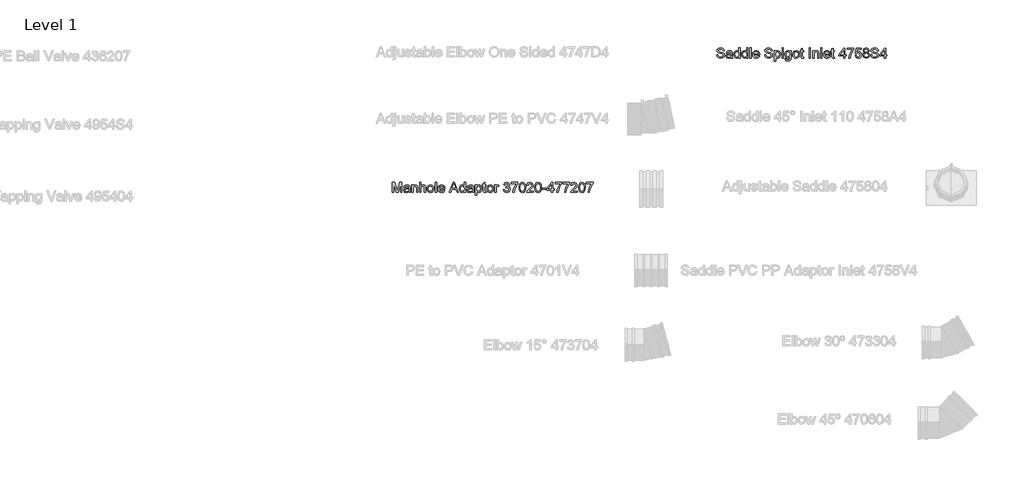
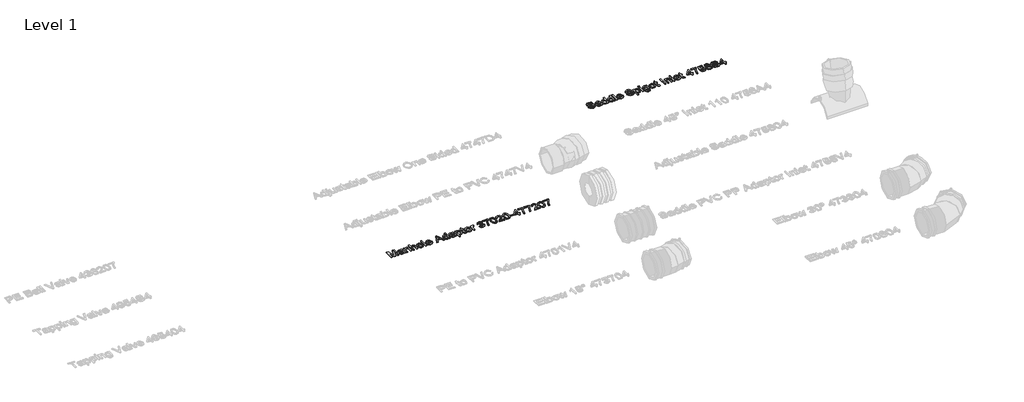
# One storey, part 37 of 38: 2 proxies.
"""IFC4 building model written with IfcOpenShell, lengths in millimetres."""

from ifc_helpers import new_model, si_unit, origin, origin_with_axes, place, context, project, spatial, polyline, outline, extrude, element, save

model = new_model("IFC4")

# Units and contexts
model_context = context("Model", 3, world=origin())
ifc_project = project(units=[si_unit("LENGTHUNIT", "METRE", prefix="MILLI")], contexts=[model_context])

# Site, building, storey
site = spatial("IfcSite", under=ifc_project)
building = spatial("IfcBuilding", under=site)
storey = spatial("IfcBuildingStorey", under=building, Name="Level 1", Elevation=0.0)

# Proxies
placement = place(None, origin())
element("IfcBuildingElementProxy", 1, Name="100 mm Arial", ObjectType="100 mm Arial", at=placement, inside=storey, context=model_context, shape_type="SweptSolid", body=[
    extrude(outline(polyline([(23902.9060497, 3992.3077873), (23902.9060497, 4051.3847104), (23915.6127805, 4051.3847104), (23927.6993189, 4009.7452873), (23930.1368189, 4001.0481719), (23932.776242, 4010.4664411), (23944.6608574, 4051.3847104), (23957.3675882, 4051.3847104), (23957.3675882, 3992.3077873), (23949.9829728, 3992.3077873), (23949.9829728, 4044.000095), (23935.1416266, 3992.3077873), (23925.1320112, 3992.3077873), (23910.2906651, 4044.000095), (23910.2906651, 3992.3077873), (23902.9060497, 3992.3077873)])), origin_with_axes(), (0.0, 0.0, 1.0), 5.0),
    extrude(outline(polyline([(23997.0598959, 3997.8462488), (23989.8988382, 3992.8414411), (23981.9877805, 3991.3847104), (23971.2642228, 3994.8895181), (23967.5214343, 4003.8462488), (23968.9348959, 4009.687595), (23972.6488382, 4013.9279796), (23977.8195112, 4016.3510565), (23984.2089343, 4017.4616334), (23997.0166266, 4020.000095), (23997.0598959, 4021.6443257), (23995.026242, 4027.0962488), (23986.8627805, 4029.2308642), (23979.3916266, 4027.8101911), (23975.8291266, 4022.7693257), (23968.4445112, 4023.6924027), (23971.6392228, 4030.9039411), (23978.0719151, 4035.1299027), (23987.8147036, 4036.6154796), (23996.7642228, 4035.3029796), (24001.8195112, 4032.0073065), (24004.0839343, 4026.9952873), (24004.4445112, 4020.5337488), (24004.4445112, 4011.3462488), (24004.8195112, 3998.5169219), (24006.2906651, 3992.3077873), (23998.9060497, 3992.3077873), (23997.0598959, 3997.8462488)]), holes=[polyline([(23997.0598959, 4012.6154796), (23985.1464343, 4010.3510565), (23978.7930689, 4009.1539411), (23975.9156651, 4007.2068257), (23974.9060497, 4004.3654796), (23977.1055689, 4000.3702873), (23983.5598959, 3998.7693257), (23991.0310497, 4000.5361527), (23995.8483574, 4004.812595), (23997.0166266, 4010.5241334), (23997.0598959, 4012.6154796)])]), origin_with_axes(), (0.0, 0.0, 1.0), 5.0),
    extrude(outline(polyline([(24014.5983574, 3992.3077873), (24014.5983574, 4035.6924027), (24021.9829728, 4035.6924027), (24021.9829728, 4029.6347104), (24027.6296074, 4034.8702873), (24035.338742, 4036.6154796), (24042.3122997, 4035.2092296), (24047.0719151, 4031.5169219), (24049.2858574, 4026.0866334), (24049.6752805, 4018.9472104), (24049.6752805, 3992.3077873), (24042.2906651, 3992.3077873), (24042.2906651, 4017.9520181), (24041.4397036, 4024.4856719), (24038.432492, 4027.9399988), (24033.3627805, 4029.2308642), (24025.3507612, 4026.3318257), (24021.9829728, 4015.3270181), (24021.9829728, 3992.3077873), (24014.5983574, 3992.3077873)])), origin_with_axes(), (0.0, 0.0, 1.0), 5.0),
    extrude(outline(polyline([(24059.8291266, 3992.3077873), (24059.8291266, 4051.3847104), (24067.213742, 4051.3847104), (24067.213742, 4029.6635565), (24072.9721555, 4034.8774988), (24080.0647036, 4036.6154796), (24088.3579728, 4034.718845), (24093.3916266, 4029.4760565), (24094.9060497, 4019.7693257), (24094.9060497, 3992.3077873), (24087.5214343, 3992.3077873), (24087.5214343, 4019.0049027), (24085.1704728, 4026.7933642), (24078.5070112, 4029.2308642), (24072.4565305, 4027.5866334), (24068.4180689, 4023.1299027), (24067.213742, 4015.3558642), (24067.213742, 3992.3077873), (24059.8291266, 3992.3077873)])), origin_with_axes(), (0.0, 0.0, 1.0), 5.0),
    extrude(outline(polyline([(24103.213742, 4014.000095), (24104.8110978, 4024.4604315), (24109.6031651, 4031.812595), (24122.6127805, 4036.6154796), (24130.370593, 4035.1533402), (24136.5671074, 4030.7669219), (24140.6290064, 4023.8023786), (24141.9829728, 4014.6058642), (24139.588742, 4001.4664411), (24132.6151843, 3994.031345), (24122.6127805, 3991.3847104), (24114.761218, 3992.8414411), (24108.5719151, 3997.2116334), (24104.5532853, 4004.3222104), (24103.213742, 4014.000095)]), holes=[polyline([(24110.5983574, 4014.0145181), (24114.0166266, 4002.5698065), (24122.6127805, 3998.7693257), (24131.1800882, 4002.5914411), (24134.5983574, 4014.2452873), (24131.1584536, 4025.4303834), (24122.6127805, 4029.2308642), (24114.0166266, 4025.4448065), (24110.5983574, 4014.0145181)])]), origin_with_axes(), (0.0, 0.0, 1.0), 5.0),
    extrude(outline(polyline([(24150.2906651, 3992.3077873), (24150.2906651, 4051.3847104), (24157.6752805, 4051.3847104), (24157.6752805, 3992.3077873), (24150.2906651, 3992.3077873)])), origin_with_axes(), (0.0, 0.0, 1.0), 5.0),
    extrude(outline(polyline([(24199.1272036, 4005.2308642), (24206.3675882, 4004.3077873), (24199.5959536, 3994.7741334), (24186.9829728, 3991.3847104), (24178.3183093, 3992.8468498), (24171.651242, 3997.2332681), (24167.4000401, 4004.2591094), (24165.9829728, 4013.6395181), (24167.4144632, 4023.3354315), (24171.7089343, 4030.5866334), (24178.2858574, 4035.1082681), (24186.5647036, 4036.6154796), (24194.5857372, 4035.1118738), (24200.994992, 4030.6010565), (24205.1975161, 4023.3642777), (24206.5983574, 4013.6827873), (24206.5550882, 4011.6924027), (24173.3675882, 4011.6924027), (24177.6151843, 4002.1010565), (24187.1272036, 3998.7693257), (24194.3675882, 4000.312595), (24199.1272036, 4005.2308642)]), holes=[polyline([(24173.3675882, 4019.0770181), (24199.213742, 4019.0770181), (24196.2570112, 4025.7693257), (24186.5358574, 4029.2308642), (24177.4421074, 4026.468845), (24173.3675882, 4019.0770181)])]), origin_with_axes(), (0.0, 0.0, 1.0), 5.0),
    extrude(outline(polyline([(24231.1031651, 3992.3077873), (24254.6848959, 4051.3847104), (24260.9733574, 4051.3847104), (24284.5550882, 3992.3077873), (24276.7522036, 3992.3077873), (24269.9877805, 4010.7693257), (24245.6560497, 4010.7693257), (24238.9060497, 3992.3077873), (24231.1031651, 3992.3077873)]), holes=[polyline([(24248.3675882, 4018.1539411), (24267.2906651, 4018.1539411), (24261.9685497, 4032.6779796), (24257.8291266, 4044.000095), (24254.151242, 4033.9472104), (24248.3675882, 4018.1539411)])]), origin_with_axes(), (0.0, 0.0, 1.0), 5.0),
    extrude(outline(polyline([(24318.2906651, 3992.3077873), (24318.2906651, 3999.2741334), (24313.4048478, 3993.3570661), (24306.651242, 3991.3847104), (24297.5070112, 3994.2404796), (24291.0454728, 4002.2092296), (24288.7522036, 4013.9568257), (24290.8651843, 4025.7116334), (24297.1969151, 4033.8029796), (24306.6223959, 4036.6154796), (24313.4300882, 4034.6034604), (24318.2906651, 4029.375095), (24318.2906651, 4051.3847104), (24325.6752805, 4051.3847104), (24325.6752805, 3992.3077873), (24318.2906651, 3992.3077873)]), holes=[polyline([(24296.1368189, 4013.9856719), (24299.4685497, 4002.5553834), (24307.3291266, 3998.7693257), (24315.0959536, 4002.3823065), (24318.2906651, 4013.4231719), (24315.0382612, 4025.4087488), (24307.026242, 4029.2308642), (24299.2522036, 4025.5601911), (24296.1368189, 4013.9856719)])]), origin_with_axes(), (0.0, 0.0, 1.0), 5.0),
    extrude(outline(polyline([(24364.4445112, 3997.8462488), (24357.2834536, 3992.8414411), (24349.3723959, 3991.3847104), (24338.6488382, 3994.8895181), (24334.9060497, 4003.8462488), (24336.3195112, 4009.687595), (24340.0334536, 4013.9279796), (24345.2041266, 4016.3510565), (24351.5935497, 4017.4616334), (24364.401242, 4020.000095), (24364.4445112, 4021.6443257), (24362.4108574, 4027.0962488), (24354.2473959, 4029.2308642), (24346.776242, 4027.8101911), (24343.213742, 4022.7693257), (24335.8291266, 4023.6924027), (24339.0238382, 4030.9039411), (24345.4565305, 4035.1299027), (24355.1993189, 4036.6154796), (24364.1488382, 4035.3029796), (24369.2041266, 4032.0073065), (24371.4685497, 4026.9952873), (24371.8291266, 4020.5337488), (24371.8291266, 4011.3462488), (24372.2041266, 3998.5169219), (24373.6752805, 3992.3077873), (24366.2906651, 3992.3077873), (24364.4445112, 3997.8462488)]), holes=[polyline([(24364.4445112, 4012.6154796), (24352.5310497, 4010.3510565), (24346.1776843, 4009.1539411), (24343.3002805, 4007.2068257), (24342.2906651, 4004.3654796), (24344.4901843, 4000.3702873), (24350.9445112, 3998.7693257), (24358.4156651, 4000.5361527), (24363.2329728, 4004.812595), (24364.401242, 4010.5241334), (24364.4445112, 4012.6154796)])]), origin_with_axes(), (0.0, 0.0, 1.0), 5.0),
    extrude(outline(polyline([(24381.9829728, 3975.6924027), (24381.9829728, 4035.6924027), (24389.3675882, 4035.6924027), (24389.3675882, 4028.4520181), (24394.4733574, 4034.5746142), (24401.3675882, 4036.6154796), (24410.7281651, 4033.7597104), (24416.8435497, 4025.7116334), (24418.9060497, 4014.3318257), (24416.5767228, 4002.3678834), (24409.8122997, 3994.218845), (24400.4733574, 3991.3847104), (24394.0478766, 3993.281345), (24389.3675882, 3998.0770181), (24389.3675882, 3975.6924027), (24381.9829728, 3975.6924027)]), holes=[polyline([(24389.3675882, 4013.6539411), (24392.5622997, 4002.4039411), (24400.3147036, 3998.7693257), (24408.2257612, 4002.5337488), (24411.5214343, 4014.2020181), (24408.3050882, 4025.4808642), (24400.6175882, 4029.2308642), (24392.7786459, 4025.2428834), (24389.3675882, 4013.6539411)])]), origin_with_axes(), (0.0, 0.0, 1.0), 5.0),
    extrude(outline(polyline([(24442.9060497, 3998.4664411), (24443.8291266, 3992.0914411), (24438.3050882, 3991.3847104), (24432.1175882, 3992.6106719), (24429.0310497, 3995.8270181), (24428.1368189, 4004.2068257), (24428.1368189, 4028.3077873), (24422.5983574, 4028.3077873), (24422.5983574, 4035.6924027), (24428.1368189, 4035.6924027), (24428.1368189, 4046.2356719), (24435.5214343, 4050.5770181), (24435.5214343, 4035.6924027), (24442.9060497, 4035.6924027), (24442.9060497, 4028.3077873), (24435.5214343, 4028.3077873), (24435.5214343, 4004.4231719), (24435.9108574, 4000.6154796), (24437.1728766, 3999.2669219), (24439.6897036, 3998.7693257), (24442.9060497, 3998.4664411)])), origin_with_axes(), (0.0, 0.0, 1.0), 5.0),
    extrude(outline(polyline([(24448.4445112, 4014.000095), (24450.041867, 4024.4604315), (24454.8339343, 4031.812595), (24467.8435497, 4036.6154796), (24475.6013622, 4035.1533402), (24481.7978766, 4030.7669219), (24485.8597757, 4023.8023786), (24487.213742, 4014.6058642), (24484.8195112, 4001.4664411), (24477.8459536, 3994.031345), (24467.8435497, 3991.3847104), (24459.9919872, 3992.8414411), (24453.8026843, 3997.2116334), (24449.7840545, 4004.3222104), (24448.4445112, 4014.000095)]), holes=[polyline([(24455.8291266, 4014.0145181), (24459.2473959, 4002.5698065), (24467.8435497, 3998.7693257), (24476.4108574, 4002.5914411), (24479.8291266, 4014.2452873), (24476.3892228, 4025.4303834), (24467.8435497, 4029.2308642), (24459.2473959, 4025.4448065), (24455.8291266, 4014.0145181)])]), origin_with_axes(), (0.0, 0.0, 1.0), 5.0),
    extrude(outline(polyline([(24495.5214343, 3992.3077873), (24495.5214343, 4035.6924027), (24501.9829728, 4035.6924027), (24501.9829728, 4029.2741334), (24506.5695112, 4035.187595), (24511.1848959, 4036.6154796), (24518.5983574, 4034.3366334), (24516.1320112, 4027.7164411), (24510.9397036, 4029.2308642), (24506.7642228, 4027.7741334), (24504.1031651, 4023.7356719), (24502.9060497, 4015.1106719), (24502.9060497, 3992.3077873), (24495.5214343, 3992.3077873)])), origin_with_axes(), (0.0, 0.0, 1.0), 5.0),
    extrude(outline(polyline([(24544.4445112, 4008.000095), (24551.8291266, 4008.9231719), (24555.9036459, 4001.1491334), (24563.526242, 3998.7693257), (24572.4973959, 4002.0433642), (24575.8291266, 4010.1491334), (24572.526242, 4017.7861527), (24564.1320112, 4020.8077873), (24558.9541266, 4020.000095), (24559.776242, 4027.3847104), (24569.338742, 4029.4183642), (24573.0598959, 4035.937595), (24570.3627805, 4041.7140373), (24563.4108574, 4044.000095), (24556.3723959, 4041.6924027), (24552.7522036, 4034.7693257), (24545.3675882, 4035.6924027), (24551.4108574, 4047.2741334), (24563.151242, 4051.3847104), (24572.057492, 4049.3582681), (24578.2882612, 4043.8198065), (24580.4445112, 4036.3702873), (24578.3964343, 4029.562595), (24572.338742, 4024.6731719), (24580.3868189, 4019.625095), (24583.213742, 4010.0193257), (24577.5598959, 3996.8077873), (24563.2666266, 3991.3847104), (24550.3147036, 3996.0145181), (24544.4445112, 4008.000095)])), origin_with_axes(), (0.0, 0.0, 1.0), 5.0),
    extrude(outline(polyline([(24589.6752805, 4043.0770181), (24589.6752805, 4050.4616334), (24628.4445112, 4050.4616334), (24628.4445112, 4044.4904796), (24617.4469151, 4028.6034604), (24609.0310497, 4008.3606719), (24606.2906651, 3992.3077873), (24598.9060497, 3992.3077873), (24601.8411459, 4008.9664411), (24609.8964343, 4027.7957681), (24621.0598959, 4043.0770181), (24589.6752805, 4043.0770181)])), origin_with_axes(), (0.0, 0.0, 1.0), 5.0),
    extrude(outline(polyline([(24634.9060497, 4021.3702873), (24637.0767228, 4038.3678834), (24643.5238382, 4048.1683642), (24654.2906651, 4051.3847104), (24662.9156651, 4049.4808642), (24668.8723959, 4043.9928834), (24672.3339343, 4035.2524988), (24673.6752805, 4021.3702873), (24671.526242, 4004.4448065), (24665.1007612, 3994.6226911), (24654.2906651, 3991.3847104), (24646.6175882, 3992.7909604), (24640.7906651, 3997.0097104), (24636.3772036, 4007.0012969), (24634.9060497, 4021.3702873)]), holes=[polyline([(24642.2906651, 4021.3847104), (24645.7522036, 4003.0457681), (24654.2906651, 3998.7693257), (24662.8291266, 4003.0601911), (24666.2906651, 4021.3847104), (24662.9445112, 4039.5145181), (24654.2041266, 4044.000095), (24645.8675882, 4040.0481719), (24642.2906651, 4021.3847104)])]), origin_with_axes(), (0.0, 0.0, 1.0), 5.0),
    extrude(outline(polyline([(24717.9829728, 3999.6924027), (24717.9829728, 3992.3077873), (24679.213742, 3992.3077873), (24680.0070112, 3997.3991334), (24684.4925882, 4005.2380757), (24693.7377805, 4013.7981719), (24706.4877805, 4026.1010565), (24709.6752805, 4034.4664411), (24706.6680689, 4041.2380757), (24698.8147036, 4044.000095), (24690.6296074, 4041.3029796), (24687.5214343, 4033.8462488), (24680.1368189, 4034.7693257), (24685.7978766, 4047.1299027), (24698.9733574, 4051.3847104), (24712.1921074, 4046.6539411), (24717.0598959, 4034.9135565), (24715.7473959, 4027.9111527), (24711.3844151, 4020.6707681), (24700.8050882, 4010.5529796), (24692.3098959, 4003.4496142), (24688.9781651, 3999.6924027), (24717.9829728, 3999.6924027)])), origin_with_axes(), (0.0, 0.0, 1.0), 5.0),
    extrude(outline(polyline([(24725.3675882, 4021.3702873), (24727.5382612, 4038.3678834), (24733.9853766, 4048.1683642), (24744.7522036, 4051.3847104), (24753.3772036, 4049.4808642), (24759.3339343, 4043.9928834), (24762.7954728, 4035.2524988), (24764.1368189, 4021.3702873), (24761.9877805, 4004.4448065), (24755.5622997, 3994.6226911), (24744.7522036, 3991.3847104), (24737.0791266, 3992.7909604), (24731.2522036, 3997.0097104), (24726.838742, 4007.0012969), (24725.3675882, 4021.3702873)]), holes=[polyline([(24732.7522036, 4021.3847104), (24736.213742, 4003.0457681), (24744.7522036, 3998.7693257), (24753.2906651, 4003.0601911), (24756.7522036, 4021.3847104), (24753.4060497, 4039.5145181), (24744.6656651, 4044.000095), (24736.3291266, 4040.0481719), (24732.7522036, 4021.3847104)])]), origin_with_axes(), (0.0, 0.0, 1.0), 5.0),
    extrude(outline(polyline([(24768.7522036, 4009.8462488), (24768.7522036, 4017.2308642), (24791.8291266, 4017.2308642), (24791.8291266, 4009.8462488), (24768.7522036, 4009.8462488)])), origin_with_axes(), (0.0, 0.0, 1.0), 5.0),
    extrude(outline(polyline([(24822.2906651, 3992.3077873), (24822.2906651, 4006.1539411), (24795.5214343, 4006.1539411), (24795.5214343, 4013.5385565), (24824.1368189, 4050.4616334), (24829.6752805, 4050.4616334), (24829.6752805, 4013.5385565), (24837.0598959, 4013.5385565), (24837.0598959, 4006.1539411), (24829.6752805, 4006.1539411), (24829.6752805, 3992.3077873), (24822.2906651, 3992.3077873)]), holes=[polyline([(24822.2906651, 4013.5385565), (24822.2906651, 4036.3558642), (24804.6079728, 4013.5385565), (24822.2906651, 4013.5385565)])]), origin_with_axes(), (0.0, 0.0, 1.0), 5.0),
    extrude(outline(polyline([(24843.5214343, 4043.0770181), (24843.5214343, 4050.4616334), (24882.2906651, 4050.4616334), (24882.2906651, 4044.4904796), (24871.2930689, 4028.6034604), (24862.8772036, 4008.3606719), (24860.1368189, 3992.3077873), (24852.7522036, 3992.3077873), (24855.6872997, 4008.9664411), (24863.7425882, 4027.7957681), (24874.9060497, 4043.0770181), (24843.5214343, 4043.0770181)])), origin_with_axes(), (0.0, 0.0, 1.0), 5.0),
    extrude(outline(polyline([(24888.7522036, 4043.0770181), (24888.7522036, 4050.4616334), (24927.5214343, 4050.4616334), (24927.5214343, 4044.4904796), (24916.5238382, 4028.6034604), (24908.1079728, 4008.3606719), (24905.3675882, 3992.3077873), (24897.9829728, 3992.3077873), (24900.9180689, 4008.9664411), (24908.9733574, 4027.7957681), (24920.1368189, 4043.0770181), (24888.7522036, 4043.0770181)])), origin_with_axes(), (0.0, 0.0, 1.0), 5.0),
    extrude(outline(polyline([(24971.8291266, 3999.6924027), (24971.8291266, 3992.3077873), (24933.0598959, 3992.3077873), (24933.8531651, 3997.3991334), (24938.338742, 4005.2380757), (24947.5839343, 4013.7981719), (24960.3339343, 4026.1010565), (24963.5214343, 4034.4664411), (24960.5142228, 4041.2380757), (24952.6608574, 4044.000095), (24944.4757612, 4041.3029796), (24941.3675882, 4033.8462488), (24933.9829728, 4034.7693257), (24939.6440305, 4047.1299027), (24952.8195112, 4051.3847104), (24966.0382612, 4046.6539411), (24970.9060497, 4034.9135565), (24969.5935497, 4027.9111527), (24965.2305689, 4020.6707681), (24954.651242, 4010.5529796), (24946.1560497, 4003.4496142), (24942.8243189, 3999.6924027), (24971.8291266, 3999.6924027)])), origin_with_axes(), (0.0, 0.0, 1.0), 5.0),
    extrude(outline(polyline([(24979.213742, 4021.3702873), (24981.3844151, 4038.3678834), (24987.8315305, 4048.1683642), (24998.5983574, 4051.3847104), (25007.2233574, 4049.4808642), (25013.1800882, 4043.9928834), (25016.6416266, 4035.2524988), (25017.9829728, 4021.3702873), (25015.8339343, 4004.4448065), (25009.4084536, 3994.6226911), (24998.5983574, 3991.3847104), (24990.9252805, 3992.7909604), (24985.0983574, 3997.0097104), (24980.6848959, 4007.0012969), (24979.213742, 4021.3702873)]), holes=[polyline([(24986.5983574, 4021.3847104), (24990.0598959, 4003.0457681), (24998.5983574, 3998.7693257), (25007.1368189, 4003.0601911), (25010.5983574, 4021.3847104), (25007.2522036, 4039.5145181), (24998.5118189, 4044.000095), (24990.1752805, 4040.0481719), (24986.5983574, 4021.3847104)])]), origin_with_axes(), (0.0, 0.0, 1.0), 5.0),
    extrude(outline(polyline([(25024.4445112, 4043.0770181), (25024.4445112, 4050.4616334), (25063.213742, 4050.4616334), (25063.213742, 4044.4904796), (25052.2161459, 4028.6034604), (25043.8002805, 4008.3606719), (25041.0598959, 3992.3077873), (25033.6752805, 3992.3077873), (25036.6103766, 4008.9664411), (25044.6656651, 4027.7957681), (25055.8291266, 4043.0770181), (25024.4445112, 4043.0770181)])), origin_with_axes(), (0.0, 0.0, 1.0), 5.0),
])
element("IfcBuildingElementProxy", 2, Name="100 mm Arial", ObjectType="100 mm Arial", at=placement, inside=storey, context=model_context, shape_type="SweptSolid", body=[
    extrude(outline(polyline([(25776.9857587, 4788.8930043), (25784.370374, 4788.8930043), (25786.7501817, 4781.5011773), (25792.5626817, 4776.8281004), (25801.418451, 4775.0468504), (25809.1347971, 4776.3954081), (25814.1179702, 4780.1021389), (25815.7549894, 4785.0564658), (25814.5290279, 4789.6646389), (25809.5097971, 4793.0180043), (25798.7573933, 4795.8377158), (25787.182874, 4799.4795427), (25780.901624, 4804.974735), (25778.8319125, 4812.3160812), (25781.3920087, 4820.6742543), (25788.870374, 4826.5732927), (25799.8174894, 4828.585312), (25811.5001817, 4826.4795427), (25819.2886433, 4820.2920427), (25822.2165279, 4811.0468504), (25814.8319125, 4811.0468504), (25810.6492202, 4818.6333889), (25800.105951, 4821.2006966), (25789.5338356, 4818.662235), (25786.2165279, 4812.5324273), (25788.5674894, 4807.412235), (25800.6251817, 4803.287235), (25813.6924894, 4799.5805043), (25820.839124, 4793.5949273), (25823.1396048, 4785.2439658), (25820.4929702, 4776.4098312), (25812.8775856, 4769.9627158), (25801.7069125, 4767.662235), (25788.5170087, 4770.1430043), (25780.1732587, 4777.6141581), (25776.9857587, 4788.8930043)])), origin_with_axes(), (0.0, 0.0, 1.0), 5.0),
    extrude(outline(polyline([(25860.9857587, 4774.1237735), (25853.824701, 4769.1189658), (25845.9136433, 4767.662235), (25835.1900856, 4771.1670427), (25831.4472971, 4780.1237735), (25832.8607587, 4785.9651196), (25836.574701, 4790.2055043), (25841.745374, 4792.6285812), (25848.1347971, 4793.7391581), (25860.9424894, 4796.2776196), (25860.9857587, 4797.9218504), (25858.9521048, 4803.3737735), (25850.7886433, 4805.5083889), (25843.3174894, 4804.0877158), (25839.7549894, 4799.0468504), (25832.370374, 4799.9699273), (25835.5650856, 4807.1814658), (25841.9977779, 4811.4074273), (25851.7405664, 4812.8930043), (25860.6900856, 4811.5805043), (25865.745374, 4808.2848312), (25868.0097971, 4803.272812), (25868.370374, 4796.8112735), (25868.370374, 4787.6237735), (25868.745374, 4774.7944466), (25870.2165279, 4768.585312), (25862.8319125, 4768.585312), (25860.9857587, 4774.1237735)]), holes=[polyline([(25860.9857587, 4788.8930043), (25849.0722971, 4786.6285812), (25842.7189317, 4785.4314658), (25839.8415279, 4783.4843504), (25838.8319125, 4780.6430043), (25841.0314317, 4776.647812), (25847.4857587, 4775.0468504), (25854.9569125, 4776.8136773), (25859.7742202, 4781.0901196), (25860.9424894, 4786.8016581), (25860.9857587, 4788.8930043)])]), origin_with_axes(), (0.0, 0.0, 1.0), 5.0),
    extrude(outline(polyline([(25905.293451, 4768.585312), (25905.293451, 4775.5516581), (25900.4076337, 4769.6345908), (25893.6540279, 4767.662235), (25884.5097971, 4770.5180043), (25878.0482587, 4778.4867543), (25875.7549894, 4790.2343504), (25877.8679702, 4801.9891581), (25884.199701, 4810.0805043), (25893.6251817, 4812.8930043), (25900.432874, 4810.880985), (25905.293451, 4805.6526196), (25905.293451, 4827.662235), (25912.6780664, 4827.662235), (25912.6780664, 4768.585312), (25905.293451, 4768.585312)]), holes=[polyline([(25883.1396048, 4790.2631966), (25886.4713356, 4778.8329081), (25894.3319125, 4775.0468504), (25902.0987394, 4778.6598312), (25905.293451, 4789.7006966), (25902.0410471, 4801.6862735), (25894.0290279, 4805.5083889), (25886.2549894, 4801.8377158), (25883.1396048, 4790.2631966)])]), origin_with_axes(), (0.0, 0.0, 1.0), 5.0),
    extrude(outline(polyline([(25950.5242202, 4768.585312), (25950.5242202, 4775.5516581), (25945.6384029, 4769.6345908), (25938.8847971, 4767.662235), (25929.7405664, 4770.5180043), (25923.2790279, 4778.4867543), (25920.9857587, 4790.2343504), (25923.0987394, 4801.9891581), (25929.4304702, 4810.0805043), (25938.855951, 4812.8930043), (25945.6636433, 4810.880985), (25950.5242202, 4805.6526196), (25950.5242202, 4827.662235), (25957.9088356, 4827.662235), (25957.9088356, 4768.585312), (25950.5242202, 4768.585312)]), holes=[polyline([(25928.370374, 4790.2631966), (25931.7021048, 4778.8329081), (25939.5626817, 4775.0468504), (25947.3295087, 4778.6598312), (25950.5242202, 4789.7006966), (25947.2718164, 4801.6862735), (25939.2597971, 4805.5083889), (25931.4857587, 4801.8377158), (25928.370374, 4790.2631966)])]), origin_with_axes(), (0.0, 0.0, 1.0), 5.0),
    extrude(outline(polyline([(25968.9857587, 4768.585312), (25968.9857587, 4827.662235), (25976.370374, 4827.662235), (25976.370374, 4768.585312), (25968.9857587, 4768.585312)])), origin_with_axes(), (0.0, 0.0, 1.0), 5.0),
    extrude(outline(polyline([(26017.8222971, 4781.5083889), (26025.0626817, 4780.585312), (26018.2910471, 4771.0516581), (26005.6780664, 4767.662235), (25997.0134029, 4769.1243745), (25990.3463356, 4773.5107927), (25986.0951337, 4780.5366341), (25984.6780664, 4789.9170427), (25986.1095567, 4799.6129562), (25990.4040279, 4806.8641581), (25996.980951, 4811.3857927), (26005.2597971, 4812.8930043), (26013.2808308, 4811.3893985), (26019.6900856, 4806.8785812), (26023.8926096, 4799.6418023), (26025.293451, 4789.960312), (26025.2501817, 4787.9699273), (25992.0626817, 4787.9699273), (25996.3102779, 4778.3785812), (26005.8222971, 4775.0468504), (26013.0626817, 4776.5901196), (26017.8222971, 4781.5083889)]), holes=[polyline([(25992.0626817, 4795.3545427), (26017.9088356, 4795.3545427), (26014.9521048, 4802.0468504), (26005.230951, 4805.5083889), (25996.137201, 4802.7463696), (25992.0626817, 4795.3545427)])]), origin_with_axes(), (0.0, 0.0, 1.0), 5.0),
    extrude(outline(polyline([(26053.9088356, 4788.8930043), (26061.293451, 4788.8930043), (26063.6732587, 4781.5011773), (26069.4857587, 4776.8281004), (26078.3415279, 4775.0468504), (26086.057874, 4776.3954081), (26091.0410471, 4780.1021389), (26092.6780664, 4785.0564658), (26091.4521048, 4789.6646389), (26086.432874, 4793.0180043), (26075.6804702, 4795.8377158), (26064.105951, 4799.4795427), (26057.824701, 4804.974735), (26055.7549894, 4812.3160812), (26058.3150856, 4820.6742543), (26065.793451, 4826.5732927), (26076.7405664, 4828.585312), (26088.4232587, 4826.4795427), (26096.2117202, 4820.2920427), (26099.1396048, 4811.0468504), (26091.7549894, 4811.0468504), (26087.5722971, 4818.6333889), (26077.0290279, 4821.2006966), (26066.4569125, 4818.662235), (26063.1396048, 4812.5324273), (26065.4905664, 4807.412235), (26077.5482587, 4803.287235), (26090.6155664, 4799.5805043), (26097.762201, 4793.5949273), (26100.0626817, 4785.2439658), (26097.4160471, 4776.4098312), (26089.8006625, 4769.9627158), (26078.6299894, 4767.662235), (26065.4400856, 4770.1430043), (26057.0963356, 4777.6141581), (26053.9088356, 4788.8930043)])), origin_with_axes(), (0.0, 0.0, 1.0), 5.0),
    extrude(outline(polyline([(26110.2165279, 4751.9699273), (26110.2165279, 4811.9699273), (26117.6011433, 4811.9699273), (26117.6011433, 4804.7295427), (26122.7069125, 4810.8521389), (26129.6011433, 4812.8930043), (26138.9617202, 4810.037235), (26145.0771048, 4801.9891581), (26147.1396048, 4790.6093504), (26144.8102779, 4778.6454081), (26138.0458548, 4770.4963696), (26128.7069125, 4767.662235), (26122.2814317, 4769.5588696), (26117.6011433, 4774.3545427), (26117.6011433, 4751.9699273), (26110.2165279, 4751.9699273)]), holes=[polyline([(26117.6011433, 4789.9314658), (26120.7958548, 4778.6814658), (26128.5482587, 4775.0468504), (26136.4593164, 4778.8112735), (26139.7549894, 4790.4795427), (26136.5386433, 4801.7583889), (26128.8511433, 4805.5083889), (26121.012201, 4801.5204081), (26117.6011433, 4789.9314658)])]), origin_with_axes(), (0.0, 0.0, 1.0), 5.0),
    extrude(outline(polyline([(26155.4472971, 4820.2776196), (26155.4472971, 4827.662235), (26162.8319125, 4827.662235), (26162.8319125, 4820.2776196), (26155.4472971, 4820.2776196)])), origin_with_axes(), (0.0, 0.0, 1.0), 5.0),
    extrude(outline(polyline([(26155.4472971, 4768.585312), (26155.4472971, 4811.9699273), (26162.8319125, 4811.9699273), (26162.8319125, 4768.585312), (26155.4472971, 4768.585312)])), origin_with_axes(), (0.0, 0.0, 1.0), 5.0),
    extrude(outline(polyline([(26172.0626817, 4764.8930043), (26179.4472971, 4763.9699273), (26181.8415279, 4760.0756966), (26189.0097971, 4758.4314658), (26196.5674894, 4760.2920427), (26200.1732587, 4765.5131966), (26200.6780664, 4774.1237735), (26189.1396048, 4768.585312), (26181.5260231, 4770.1970908), (26175.8487394, 4775.0324273), (26171.1396048, 4790.4939658), (26173.2525856, 4801.9386773), (26179.3679702, 4810.037235), (26188.7790279, 4812.8930043), (26195.3667683, 4811.2776196), (26200.6780664, 4806.4314658), (26200.6780664, 4811.9699273), (26208.0626817, 4811.9699273), (26208.0626817, 4774.5131966), (26206.043451, 4760.1694466), (26199.6468164, 4753.4987735), (26188.8655664, 4751.0468504), (26176.5843164, 4754.5011773), (26172.0626817, 4764.8930043)]), holes=[polyline([(26178.5242202, 4790.9987735), (26181.6756625, 4779.568485), (26189.5867202, 4775.9699273), (26197.4833548, 4779.5468504), (26200.6780664, 4790.7824273), (26197.3896048, 4801.7944466), (26189.4713356, 4805.5083889), (26181.7189317, 4801.8521389), (26178.5242202, 4790.9987735)])]), origin_with_axes(), (0.0, 0.0, 1.0), 5.0),
    extrude(outline(polyline([(26217.293451, 4790.2776196), (26218.8908067, 4800.7379562), (26223.682874, 4808.0901196), (26236.6924894, 4812.8930043), (26244.4503019, 4811.4308648), (26250.6468164, 4807.0444466), (26254.7087154, 4800.0799033), (26256.0626817, 4790.8833889), (26253.668451, 4777.7439658), (26246.6948933, 4770.3088696), (26236.6924894, 4767.662235), (26228.8409269, 4769.1189658), (26222.651624, 4773.4891581), (26218.6329942, 4780.599735), (26217.293451, 4790.2776196)]), holes=[polyline([(26224.6780664, 4790.2920427), (26228.0963356, 4778.8473312), (26236.6924894, 4775.0468504), (26245.2597971, 4778.8689658), (26248.6780664, 4790.522812), (26245.2381625, 4801.7079081), (26236.6924894, 4805.5083889), (26228.0963356, 4801.7223312), (26224.6780664, 4790.2920427)])]), origin_with_axes(), (0.0, 0.0, 1.0), 5.0),
    extrude(outline(polyline([(26280.0626817, 4774.7439658), (26280.9857587, 4768.3689658), (26275.4617202, 4767.662235), (26269.2742202, 4768.8881966), (26266.1876817, 4772.1045427), (26265.293451, 4780.4843504), (26265.293451, 4804.585312), (26259.7549894, 4804.585312), (26259.7549894, 4811.9699273), (26265.293451, 4811.9699273), (26265.293451, 4822.5131966), (26272.6780664, 4826.8545427), (26272.6780664, 4811.9699273), (26280.0626817, 4811.9699273), (26280.0626817, 4804.585312), (26272.6780664, 4804.585312), (26272.6780664, 4780.7006966), (26273.0674894, 4776.8930043), (26274.3295087, 4775.5444466), (26276.8463356, 4775.0468504), (26280.0626817, 4774.7439658)])), origin_with_axes(), (0.0, 0.0, 1.0), 5.0),
    extrude(outline(polyline([(26312.370374, 4768.585312), (26312.370374, 4827.662235), (26319.7549894, 4827.662235), (26319.7549894, 4768.585312), (26312.370374, 4768.585312)])), origin_with_axes(), (0.0, 0.0, 1.0), 5.0),
    extrude(outline(polyline([(26333.6011433, 4768.585312), (26333.6011433, 4811.9699273), (26340.9857587, 4811.9699273), (26340.9857587, 4805.912235), (26346.6323933, 4811.147812), (26354.3415279, 4812.8930043), (26361.3150856, 4811.4867543), (26366.074701, 4807.7944466), (26368.2886433, 4802.3641581), (26368.6780664, 4795.224735), (26368.6780664, 4768.585312), (26361.293451, 4768.585312), (26361.293451, 4794.2295427), (26360.4424894, 4800.7631966), (26357.4352779, 4804.2175235), (26352.3655664, 4805.5083889), (26344.3535471, 4802.6093504), (26340.9857587, 4791.6045427), (26340.9857587, 4768.585312), (26333.6011433, 4768.585312)])), origin_with_axes(), (0.0, 0.0, 1.0), 5.0),
    extrude(outline(polyline([(26378.8319125, 4768.585312), (26378.8319125, 4827.662235), (26386.2165279, 4827.662235), (26386.2165279, 4768.585312), (26378.8319125, 4768.585312)])), origin_with_axes(), (0.0, 0.0, 1.0), 5.0),
    extrude(outline(polyline([(26427.668451, 4781.5083889), (26434.9088356, 4780.585312), (26428.137201, 4771.0516581), (26415.5242202, 4767.662235), (26406.8595567, 4769.1243745), (26400.1924894, 4773.5107927), (26395.9412875, 4780.5366341), (26394.5242202, 4789.9170427), (26395.9557106, 4799.6129562), (26400.2501817, 4806.8641581), (26406.8271048, 4811.3857927), (26415.105951, 4812.8930043), (26423.1269846, 4811.3893985), (26429.5362394, 4806.8785812), (26433.7387635, 4799.6418023), (26435.1396048, 4789.960312), (26435.0963356, 4787.9699273), (26401.9088356, 4787.9699273), (26406.1564317, 4778.3785812), (26415.668451, 4775.0468504), (26422.9088356, 4776.5901196), (26427.668451, 4781.5083889)]), holes=[polyline([(26401.9088356, 4795.3545427), (26427.7549894, 4795.3545427), (26424.7982587, 4802.0468504), (26415.0771048, 4805.5083889), (26405.9833548, 4802.7463696), (26401.9088356, 4795.3545427)])]), origin_with_axes(), (0.0, 0.0, 1.0), 5.0),
    extrude(outline(polyline([(26458.2165279, 4774.7439658), (26459.1396048, 4768.3689658), (26453.6155664, 4767.662235), (26447.4280664, 4768.8881966), (26444.3415279, 4772.1045427), (26443.4472971, 4780.4843504), (26443.4472971, 4804.585312), (26437.9088356, 4804.585312), (26437.9088356, 4811.9699273), (26443.4472971, 4811.9699273), (26443.4472971, 4822.5131966), (26450.8319125, 4826.8545427), (26450.8319125, 4811.9699273), (26458.2165279, 4811.9699273), (26458.2165279, 4804.585312), (26450.8319125, 4804.585312), (26450.8319125, 4780.7006966), (26451.2213356, 4776.8930043), (26452.4833548, 4775.5444466), (26455.0001817, 4775.0468504), (26458.2165279, 4774.7439658)])), origin_with_axes(), (0.0, 0.0, 1.0), 5.0),
    extrude(outline(polyline([(26510.8319125, 4768.585312), (26510.8319125, 4782.4314658), (26484.0626817, 4782.4314658), (26484.0626817, 4789.8160812), (26512.6780664, 4826.7391581), (26518.2165279, 4826.7391581), (26518.2165279, 4789.8160812), (26525.6011433, 4789.8160812), (26525.6011433, 4782.4314658), (26518.2165279, 4782.4314658), (26518.2165279, 4768.585312), (26510.8319125, 4768.585312)]), holes=[polyline([(26510.8319125, 4789.8160812), (26510.8319125, 4812.6333889), (26493.1492202, 4789.8160812), (26510.8319125, 4789.8160812)])]), origin_with_axes(), (0.0, 0.0, 1.0), 5.0),
    extrude(outline(polyline([(26532.0626817, 4819.3545427), (26532.0626817, 4826.7391581), (26570.8319125, 4826.7391581), (26570.8319125, 4820.7680043), (26559.8343164, 4804.880985), (26551.418451, 4784.6381966), (26548.6780664, 4768.585312), (26541.293451, 4768.585312), (26544.2285471, 4785.2439658), (26552.2838356, 4804.0732927), (26563.4472971, 4819.3545427), (26532.0626817, 4819.3545427)])), origin_with_axes(), (0.0, 0.0, 1.0), 5.0),
    extrude(outline(polyline([(26577.293451, 4784.2776196), (26584.6780664, 4785.2006966), (26588.3992202, 4777.5925235), (26596.1155664, 4775.0468504), (26605.3751817, 4778.5877158), (26608.6780664, 4787.9843504), (26605.5843164, 4796.7535812), (26596.230951, 4799.9699273), (26589.7477779, 4798.6862735), (26585.6011433, 4795.3545427), (26578.2165279, 4796.2776196), (26584.6780664, 4826.7391581), (26613.293451, 4826.7391581), (26613.293451, 4819.3545427), (26590.6492202, 4819.3545427), (26587.4905664, 4803.085312), (26598.293451, 4807.3545427), (26610.9208548, 4802.0612735), (26616.0626817, 4788.4458889), (26611.432874, 4774.7439658), (26604.7838356, 4769.4326677), (26596.0867202, 4767.662235), (26583.0554702, 4772.2127158), (26577.293451, 4784.2776196)])), origin_with_axes(), (0.0, 0.0, 1.0), 5.0),
    extrude(outline(polyline([(26633.2838356, 4801.1237735), (26626.5554702, 4805.710312), (26624.370374, 4812.849735), (26629.1299894, 4823.3930043), (26641.807874, 4827.662235), (26654.6011433, 4823.2920427), (26659.4472971, 4812.647812), (26657.2910471, 4805.6886773), (26650.7501817, 4801.1237735), (26658.6035471, 4795.3329081), (26661.293451, 4785.7776196), (26655.9569125, 4772.8833889), (26641.9088356, 4767.662235), (26627.8607587, 4772.9050235), (26622.5242202, 4785.9795427), (26625.3222971, 4795.7583889), (26633.2838356, 4801.1237735)]), holes=[polyline([(26631.7549894, 4812.6333889), (26634.3727779, 4806.835312), (26641.995374, 4804.585312), (26649.4665279, 4806.8208889), (26652.0626817, 4812.3016581), (26649.3799894, 4817.9771389), (26641.9088356, 4820.2776196), (26634.4160471, 4818.0276196), (26631.7549894, 4812.6333889)]), polyline([(26629.9088356, 4786.2391581), (26631.1420087, 4780.679062), (26635.5049894, 4776.5180043), (26641.9665279, 4775.0468504), (26650.7646048, 4778.1406004), (26653.9088356, 4786.0083889), (26650.6636433, 4794.0276196), (26641.7213356, 4797.2006966), (26633.0314317, 4794.0708889), (26629.9088356, 4786.2391581)])]), origin_with_axes(), (0.0, 0.0, 1.0), 5.0),
    extrude(outline(polyline([(26667.7549894, 4788.8930043), (26675.1396048, 4788.8930043), (26677.5194125, 4781.5011773), (26683.3319125, 4776.8281004), (26692.1876817, 4775.0468504), (26699.9040279, 4776.3954081), (26704.887201, 4780.1021389), (26706.5242202, 4785.0564658), (26705.2982587, 4789.6646389), (26700.2790279, 4793.0180043), (26689.526624, 4795.8377158), (26677.9521048, 4799.4795427), (26671.6708548, 4804.974735), (26669.6011433, 4812.3160812), (26672.1612394, 4820.6742543), (26679.6396048, 4826.5732927), (26690.5867202, 4828.585312), (26702.2694125, 4826.4795427), (26710.057874, 4820.2920427), (26712.9857587, 4811.0468504), (26705.6011433, 4811.0468504), (26701.418451, 4818.6333889), (26690.8751817, 4821.2006966), (26680.3030664, 4818.662235), (26676.9857587, 4812.5324273), (26679.3367202, 4807.412235), (26691.3944125, 4803.287235), (26704.4617202, 4799.5805043), (26711.6083548, 4793.5949273), (26713.9088356, 4785.2439658), (26711.262201, 4776.4098312), (26703.6468164, 4769.9627158), (26692.4761433, 4767.662235), (26679.2862394, 4770.1430043), (26670.9424894, 4777.6141581), (26667.7549894, 4788.8930043)])), origin_with_axes(), (0.0, 0.0, 1.0), 5.0),
    extrude(outline(polyline([(26746.2165279, 4768.585312), (26746.2165279, 4782.4314658), (26719.4472971, 4782.4314658), (26719.4472971, 4789.8160812), (26748.0626817, 4826.7391581), (26753.6011433, 4826.7391581), (26753.6011433, 4789.8160812), (26760.9857587, 4789.8160812), (26760.9857587, 4782.4314658), (26753.6011433, 4782.4314658), (26753.6011433, 4768.585312), (26746.2165279, 4768.585312)]), holes=[polyline([(26746.2165279, 4789.8160812), (26746.2165279, 4812.6333889), (26728.5338356, 4789.8160812), (26746.2165279, 4789.8160812)])]), origin_with_axes(), (0.0, 0.0, 1.0), 5.0),
])

save(model, "model.ifc")
